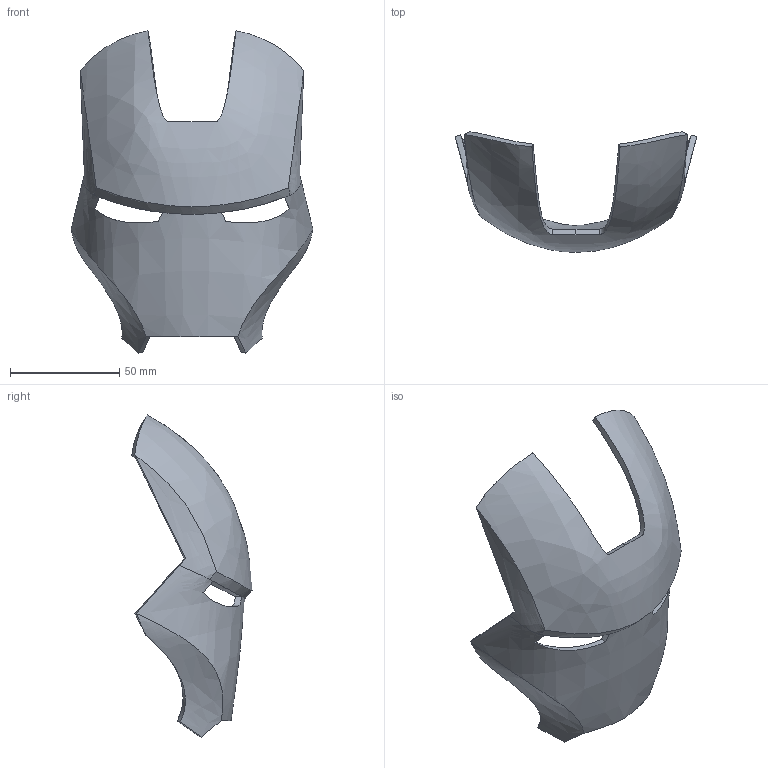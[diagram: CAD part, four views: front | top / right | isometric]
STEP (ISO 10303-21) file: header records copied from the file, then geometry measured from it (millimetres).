
FILE_DESCRIPTION(/* description */ ('STEP AP242','CAx-IF Rec.Pracs.---Representation and Presentation of Product Manufacturing Information (PMI)---4.0---2014-10-13','CAx-IF Rec.Pracs.---3D Tessellated Geometry---0.4---2014-09-14','2;1'),/* implementation_level */ '2;1');
FILE_NAME(/* name */ '6856aa558a3a8d47ea07ba74',/* time_stamp */ '2025-06-21T12:49:26Z',/* author */ (''),/* organization */ (''),/* preprocessor_version */ 'ST-DEVELOPER v20',/* originating_system */ 'ONSHAPE BY PTC INC, 1.199',/* authorisation */ ' ');
FILE_SCHEMA (('AP242_MANAGED_MODEL_BASED_3D_ENGINEERING_MIM_LF { 1 0 10303 442 1 1 4 }'));
Length unit declared in the file: metre
Products named in the file (1): Front Abdeckung Helm
Bounding box: 110.46 x 55.03 x 147.14 mm (x, y, z)
Volume: 46782.5 mm3; surface area: 34861.3 mm2
Topology: 1 solids, 1 shells, 92 faces, 251 edges, 158 vertices
Faces by surface type: bspline 69, cylinder 13, plane 10
Entity records: 20624 total; most frequent: CARTESIAN_POINT 18950, ORIENTED_EDGE 502, EDGE_CURVE 251, B_SPLINE_CURVE_WITH_KNOTS 233, VERTEX_POINT 158, EDGE_LOOP 95, FACE_BOUND 95, ADVANCED_FACE 92
